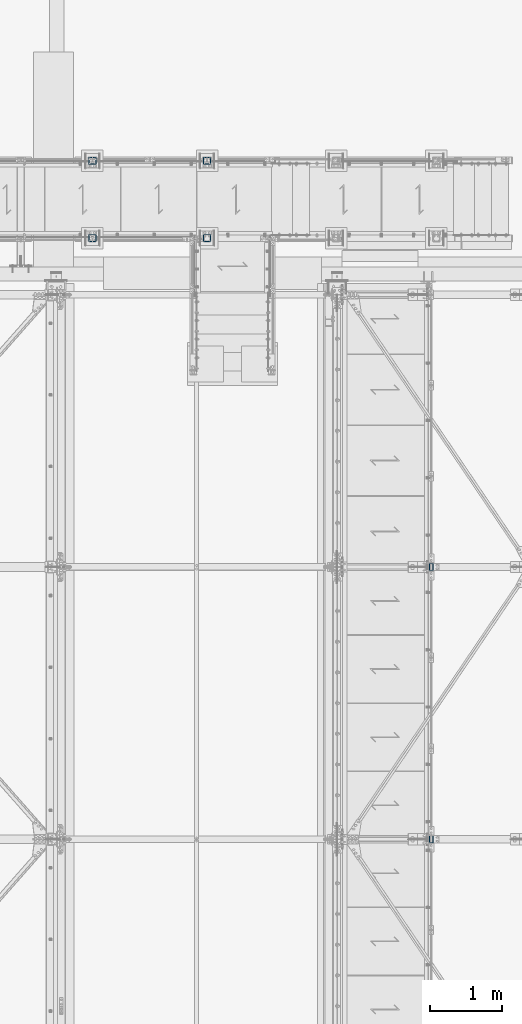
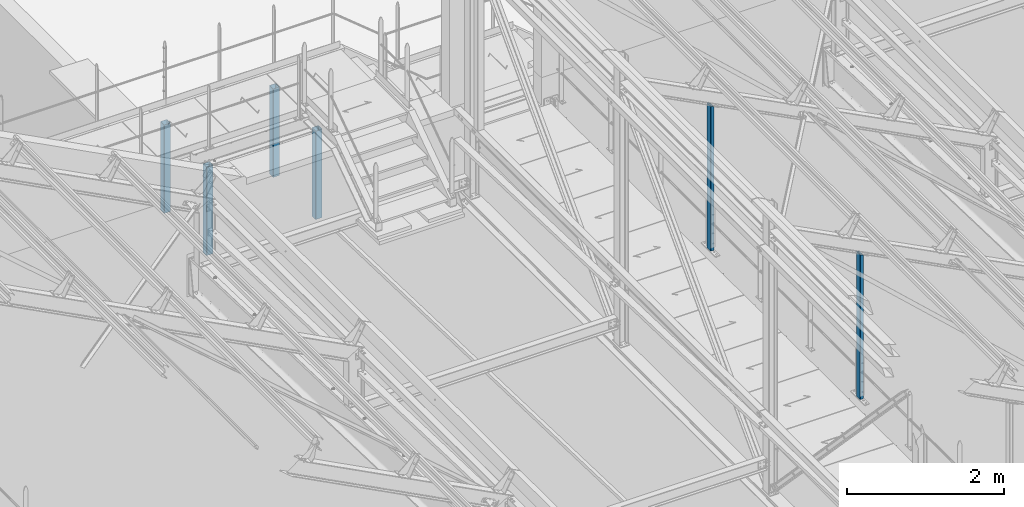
# One storey, part 13 of 362: 6 columns, 6 elements without a shape of their own.
"""IFC2X3 building model written with IfcOpenShell, lengths in millimetres."""

from ifc_helpers import new_model, si_unit, frame, origin_with_axes, origin_2d_with_axis, place, context, subcontext, project, spatial, hollow_rectangle, extrude, clip, halfspace, material, type_object, element, aggregate, save


model = new_model("IFC2X3")

# Units and contexts
model_context = context("Model", 3, precision=1e-05, world=origin_with_axes())
body_context = subcontext(model_context, "Body", "Model", "MODEL_VIEW")
ifc_project = project(units=[si_unit("LENGTHUNIT", "METRE", prefix="MILLI"), si_unit("AREAUNIT", "SQUARE_METRE"), si_unit("VOLUMEUNIT", "CUBIC_METRE"), si_unit("MASSUNIT", "GRAM", prefix="KILO"), si_unit("TIMEUNIT", "SECOND"), si_unit("PLANEANGLEUNIT", "RADIAN"), si_unit("SOLIDANGLEUNIT", "STERADIAN"), si_unit("THERMODYNAMICTEMPERATUREUNIT", "DEGREE_CELSIUS"), si_unit("LUMINOUSINTENSITYUNIT", "LUMEN")], contexts=[model_context])

# Site, building, storey
site_placement = place(None, origin_with_axes())
site = spatial("IfcSite", under=ifc_project, at=site_placement, Name="Undefined", CompositionType="ELEMENT")
building_placement = place(site_placement, origin_with_axes())
building = spatial("IfcBuilding", under=site, at=building_placement, Name="Undefined", CompositionType="ELEMENT")
storey_placement = place(building_placement, origin_with_axes())
storey = spatial("IfcBuildingStorey", under=building, at=storey_placement, Name="Undefined", CompositionType="ELEMENT", Elevation=0.0)

# Assembly, column
assembly_1_placement = place(storey_placement, origin_with_axes())
assembly_1 = element("IfcElementAssembly", 1, at=assembly_1_placement, inside=storey, AssemblyPlace="NOTDEFINED", PredefinedType="NOTDEFINED")
ifc_material = material(Name="Undefined/S235-E24")
column_type_1 = type_object("IfcColumnType", Name="TUBE-C-100*100*5", PredefinedType="NOTDEFINED")
column_1_placement = place(assembly_1_placement, frame((20055.0, 15990.0001225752, 7062.0), z_axis=(0.0, 0.0, 1.0), x_axis=(0.0, 1.0, 0.0)))
column_1 = element("IfcColumn", 2, at=column_1_placement, type_object=column_type_1, material=ifc_material, Name="POTELET", ObjectType="TUBE-C-100*100*5", context=body_context, shape_type="SweptSolid", body=[
    extrude(hollow_rectangle(XDim=100.0, YDim=100.0, WallThickness=5.0, InnerFilletRadius=5.0, OuterFilletRadius=10.0, at=origin_2d_with_axis()), frame((0.0, 0.0, 1370.00011661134), z_axis=(0.0, 0.0, -1.0), x_axis=(0.0, 1.0, 0.0)), (0.0, 0.0, 1.0), 1370.0),
])
aggregate(assembly_1, [column_1])

assembly_2_placement = place(storey_placement, origin_with_axes())
assembly_2 = element("IfcElementAssembly", 3, at=assembly_2_placement, inside=storey, AssemblyPlace="NOTDEFINED", PredefinedType="NOTDEFINED")
column_2_placement = place(assembly_2_placement, frame((20055.0, 17069.9998774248, 7062.0), z_axis=(0.0, 0.0, 1.0), x_axis=(0.0, -1.0, 0.0)))
column_2 = element("IfcColumn", 4, at=column_2_placement, type_object=column_type_1, material=ifc_material, Name="POTELET", ObjectType="TUBE-C-100*100*5", context=body_context, shape_type="SweptSolid", body=[
    extrude(hollow_rectangle(XDim=100.0, YDim=100.0, WallThickness=5.0, InnerFilletRadius=5.0, OuterFilletRadius=10.0, at=origin_2d_with_axis()), frame((0.0, 0.0, 1370.00011661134), z_axis=(0.0, 0.0, -1.0), x_axis=(0.0, 1.0, 0.0)), (0.0, 0.0, 1.0), 1370.0),
])
aggregate(assembly_2, [column_2])

assembly_3_placement = place(storey_placement, origin_with_axes())
assembly_3 = element("IfcElementAssembly", 5, at=assembly_3_placement, inside=storey, AssemblyPlace="NOTDEFINED", PredefinedType="NOTDEFINED")
column_3_placement = place(assembly_3_placement, frame((21655.0, 15990.0001225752, 7062.0), z_axis=(0.0, 0.0, 1.0), x_axis=(0.0, 1.0, 0.0)))
column_3 = element("IfcColumn", 6, at=column_3_placement, type_object=column_type_1, material=ifc_material, Name="POTELET", ObjectType="TUBE-C-100*100*5", context=body_context, shape_type="SweptSolid", body=[
    extrude(hollow_rectangle(XDim=100.0, YDim=100.0, WallThickness=5.0, InnerFilletRadius=5.0, OuterFilletRadius=10.0, at=origin_2d_with_axis()), frame((0.0, 0.0, 1370.00011661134), z_axis=(0.0, 0.0, -1.0), x_axis=(0.0, 1.0, 0.0)), (0.0, 0.0, 1.0), 1370.0),
])
aggregate(assembly_3, [column_3])

assembly_4_placement = place(storey_placement, origin_with_axes())
assembly_4 = element("IfcElementAssembly", 7, at=assembly_4_placement, inside=storey, AssemblyPlace="NOTDEFINED", PredefinedType="NOTDEFINED")
column_4_placement = place(assembly_4_placement, frame((21655.0, 17069.9998774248, 7062.0), z_axis=(0.0, 0.0, 1.0), x_axis=(0.0, -1.0, 0.0)))
column_4 = element("IfcColumn", 8, at=column_4_placement, type_object=column_type_1, material=ifc_material, Name="POTELET", ObjectType="TUBE-C-100*100*5", context=body_context, shape_type="SweptSolid", body=[
    extrude(hollow_rectangle(XDim=100.0, YDim=100.0, WallThickness=5.0, InnerFilletRadius=5.0, OuterFilletRadius=10.0, at=origin_2d_with_axis()), frame((0.0, 0.0, 1370.00011661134), z_axis=(0.0, 0.0, -1.0), x_axis=(0.0, 1.0, 0.0)), (0.0, 0.0, 1.0), 1370.0),
])
aggregate(assembly_4, [column_4])

assembly_5_placement = place(storey_placement, origin_with_axes())
assembly_5 = element("IfcElementAssembly", 9, at=assembly_5_placement, inside=storey, AssemblyPlace="NOTDEFINED", PredefinedType="NOTDEFINED")
column_type_2 = type_object("IfcColumnType", Name="TUBE-R-100*50*3", PredefinedType="NOTDEFINED")
column_5_placement = place(assembly_5_placement, frame((24783.9916006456, 11400.0001062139, 8249.99999999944), z_axis=(0.0, 0.0, 1.0), x_axis=(0.0, -1.0, 0.0)))
column_5 = element("IfcColumn", 10, at=column_5_placement, type_object=column_type_2, material=ifc_material, Name="SUSPENTE", ObjectType="TUBE-R-100*50*3", context=body_context, shape_type="Clipping", body=[
    clip(extrude(hollow_rectangle(XDim=50.0, YDim=100.0, WallThickness=3.0, InnerFilletRadius=3.0, OuterFilletRadius=6.0, at=origin_2d_with_axis()), frame((0.0, 0.0, 2250.9289509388), z_axis=(0.0, 0.0, -1.0), x_axis=(0.0, 1.0, 0.0)), (0.0, 0.0, 1.0), 2250.93), halfspace(frame((-1.97960616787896e-07, -50.6315018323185, 2264.08160073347), z_axis=(4.17299179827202e-08, -0.460093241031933, -0.887870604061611), x_axis=(1.0, 0.0, 0.0)), True)),
])
aggregate(assembly_5, [column_5])

assembly_6_placement = place(storey_placement, origin_with_axes())
assembly_6 = element("IfcElementAssembly", 11, at=assembly_6_placement, inside=storey, AssemblyPlace="NOTDEFINED", PredefinedType="NOTDEFINED")
column_6_placement = place(assembly_6_placement, frame((24783.9916006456, 7600.00010621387, 8249.99999999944), z_axis=(0.0, 0.0, 1.0), x_axis=(0.0, -1.0, 0.0)))
column_6 = element("IfcColumn", 12, at=column_6_placement, type_object=column_type_2, material=ifc_material, Name="SUSPENTE", ObjectType="TUBE-R-100*50*3", context=body_context, shape_type="Clipping", body=[
    clip(extrude(hollow_rectangle(XDim=50.0, YDim=100.0, WallThickness=3.0, InnerFilletRadius=3.0, OuterFilletRadius=6.0, at=origin_2d_with_axis()), frame((0.0, 0.0, 2250.9289509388), z_axis=(0.0, 0.0, -1.0), x_axis=(0.0, 1.0, 0.0)), (0.0, 0.0, 1.0), 2250.93), halfspace(frame((-8.59026840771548e-08, -46.0305694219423, 2261.69740432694), z_axis=(4.17299179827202e-08, -0.460093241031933, -0.887870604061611), x_axis=(1.0, 0.0, 0.0)), True)),
])
aggregate(assembly_6, [column_6])

save(model, "model.ifc")
